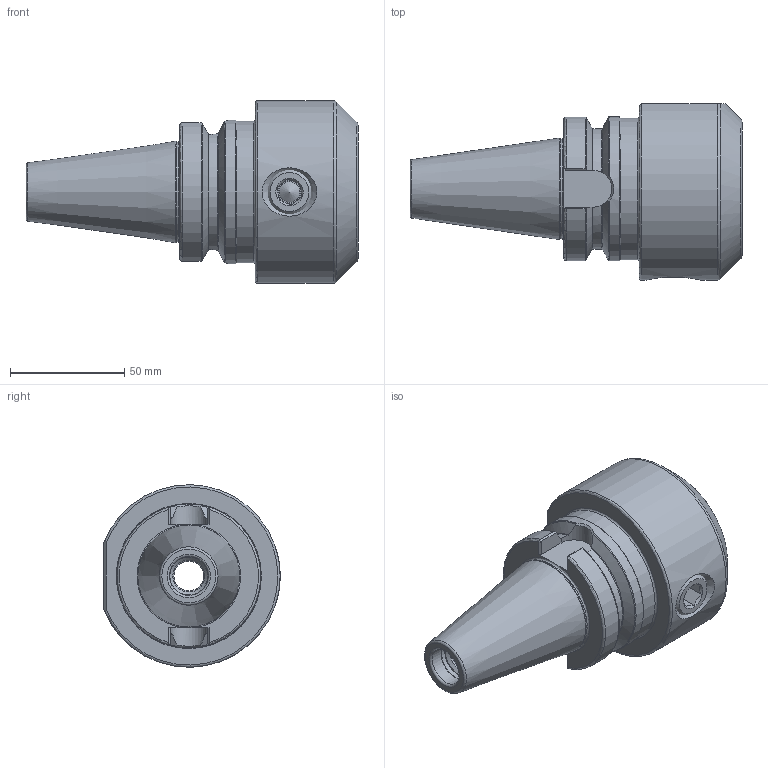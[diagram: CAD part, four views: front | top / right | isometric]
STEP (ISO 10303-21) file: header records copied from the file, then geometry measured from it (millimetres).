
FILE_DESCRIPTION(/* description */ (''),/* implementation_level */ '2;1');
FILE_NAME(/* name */ 'I:\00.2022最新版图纸\SLA---侧固式铣刀柄\侧固刀柄三维模型\BT40-SLA40-80.stp',/* time_stamp */ '2022-07-26T14:00:37+08:00',/* author */ ('Administrator'),/* organization */ (''),/* preprocessor_version */ 'ST-DEVELOPER v18.1',/* originating_system */ 'Autodesk Inventor 2022',/* authorisation */ '');
FILE_SCHEMA (('AUTOMOTIVE_DESIGN { 1 0 10303 214 3 1 1 }'));
Length unit declared in the file: millimetre
Products named in the file (3): BT40-SLA40-80; BT40-SLA40-80_1; M20x2x20
Assembly tree (2 placements, depth 2):
  BT40-SLA40-80
    BT40-SLA40-80_1
    M20x2x20
Bounding box: 145.4 x 77.2 x 79.99 mm (x, y, z)
Volume: 266142.8 mm3; surface area: 48061.8 mm2
Topology: 2 solids, 2 shells, 107 faces, 276 edges, 176 vertices
Faces by surface type: plane 38, cylinder 21, cone 20, torus 18, bspline 10
Full cylindrical faces by diameter (mm): 9 x1, 10 x1, 13 x1, 14 x1, 17 x1, 17.6 x1, 18 x1, 20 x1, 20.5 x1, 40 x1, 41 x1, 43.85 x1, 62 x1, 63 x1
Entity records: 4088 total; most frequent: CARTESIAN_POINT 1505, ORIENTED_EDGE 548, DIRECTION 487, EDGE_CURVE 274, AXIS2_PLACEMENT_3D 193, VERTEX_POINT 176, EDGE_LOOP 116, FACE_OUTER_BOUND 107
